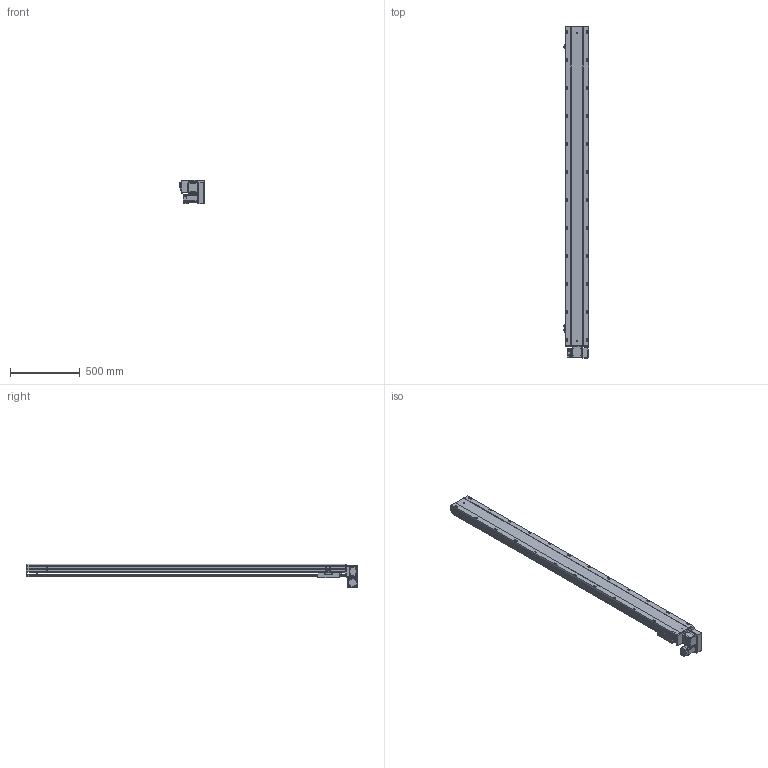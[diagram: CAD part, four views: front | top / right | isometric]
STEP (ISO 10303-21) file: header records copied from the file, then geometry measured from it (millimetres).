
FILE_DESCRIPTION (( 'STEP AP203' ), '1' );
FILE_NAME ('BTB17-L40-2000-LU-M40-C4.STEP', '2022-07-20T06:16:46', ( 'CXY' ), ( 'BT' ), 'SwSTEP 2.0', 'SolidWorks 2016', '' );
FILE_SCHEMA (( 'CONFIG_CONTROL_DESIGN' ));
Length unit declared in the file: millimetre
Products named in the file (11): M40; BTB17-L40-2000-LU-M40-C4; FS-08-T40; BTB17-L-06; BTB17-L-菁釱_XD; FS-07-T40(1); BTB17-L-23; BTB17-L-24; BTB17-L-04; BTB17-L-01; BTB17-L-HZ
Assembly tree (13 placements, depth 2):
  BTB17-L40-2000-LU-M40-C4
    BTB17-L-菁釱_XD
    BTB17-L-01
    BTB17-L-04  x3
    BTB17-L-06
    BTB17-L-23  x2
    BTB17-L-24
    BTB17-L-HZ
    FS-07-T40(1)
    FS-08-T40
    M40
Bounding box: 183.7 x 2373.5 x 171.5 mm (x, y, z)
Volume: 19934090.1 mm3; surface area: 2589584.8 mm2
Topology: 22 solids, 22 shells, 1705 faces, 4471 edges, 2826 vertices
Faces by surface type: plane 917, cylinder 584, cone 172, torus 16, bspline 16
Entity records: 44578 total; most frequent: CARTESIAN_POINT 8674, DIRECTION 7353, ORIENTED_EDGE 7054, EDGE_CURVE 3527, AXIS2_PLACEMENT_3D 2527, VECTOR 2299, LINE 2299, VERTEX_POINT 2294
